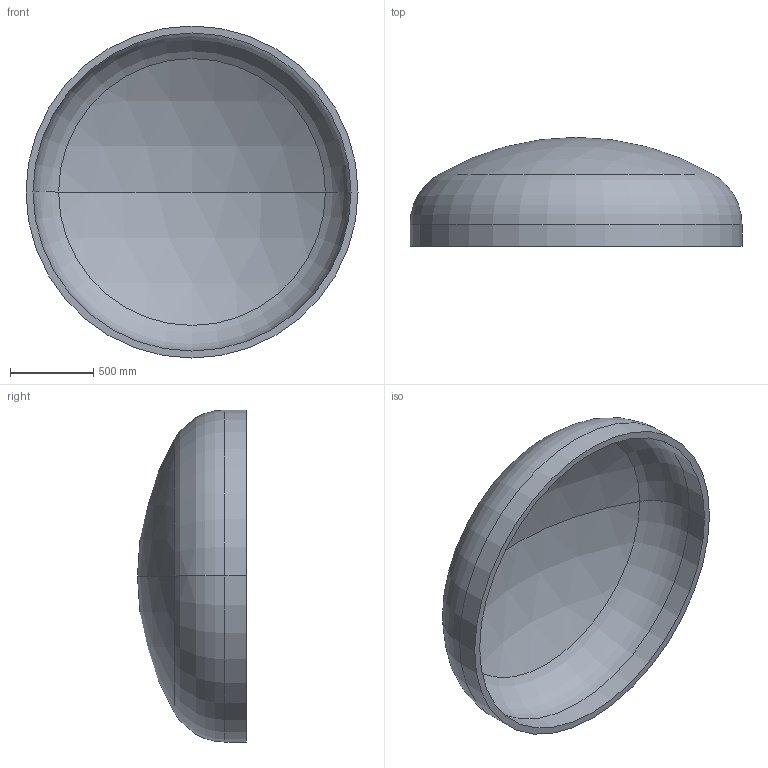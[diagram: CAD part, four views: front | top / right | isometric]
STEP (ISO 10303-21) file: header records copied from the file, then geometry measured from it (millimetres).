
FILE_DESCRIPTION (( 'STEP AP203' ), '1' );
FILE_NAME ('DIN 28013 Korbbogenform_-_Boden DIN 28013 - 2000 x 130 - I - s=42.step', '2016-07-01T13:52:20', ( '' ), ( '' ), 'SwSTEP 2.0', 'SolidWorks 2013', '' );
FILE_SCHEMA (( 'CONFIG_CONTROL_DESIGN' ));
Length unit declared in the file: millimetre
Products named in the file (1): DIN 28013 Korbbogenform_-_Boden DIN 28013 - 2000 x 130 - I - s=42
Bounding box: 2000 x 656.56 x 2000 mm (x, y, z)
Volume: 211580211.9 mm3; surface area: 10337291.6 mm2
Topology: 1 solids, 1 shells, 13 faces, 24 edges, 14 vertices
Faces by surface type: torus 4, cylinder 4, sphere 4, plane 1
Entity records: 407 total; most frequent: DIRECTION 72, CARTESIAN_POINT 52, ORIENTED_EDGE 48, AXIS2_PLACEMENT_3D 34, EDGE_CURVE 24, CIRCLE 20, EDGE_LOOP 14, VERTEX_POINT 14
